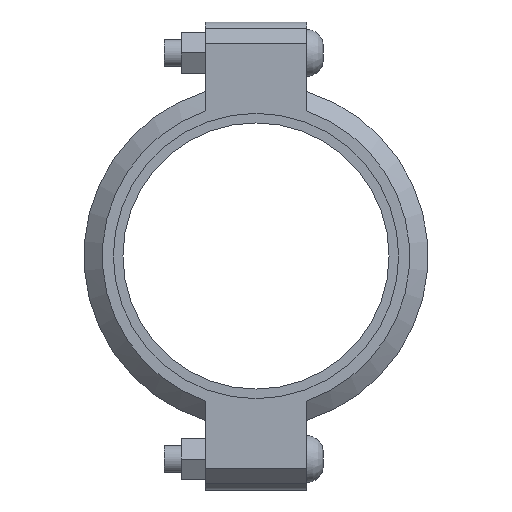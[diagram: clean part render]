
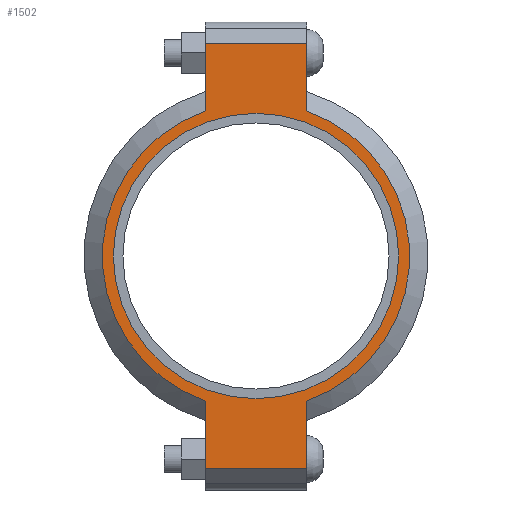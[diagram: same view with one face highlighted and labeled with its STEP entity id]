
A CAD part, left-side view. The second image highlights one B-rep face of the part: STEP entity #1502.
In plain terms, the highlighted planar face has unit normal (-1, 0, 0) as drawn and (0, 0, 1) by its records, which use the part's own axes.
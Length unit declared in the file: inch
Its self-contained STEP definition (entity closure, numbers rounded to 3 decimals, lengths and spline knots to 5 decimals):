
#126=LINE('',#2621,#219);
#134=LINE('',#2657,#227);
#141=LINE('',#2678,#234);
#150=LINE('',#2710,#243);
#151=LINE('',#2714,#244);
#152=LINE('',#2716,#245);
#219=VECTOR('',#2145,0.3937);
#227=VECTOR('',#2161,0.3937);
#234=VECTOR('',#2180,0.3937);
#243=VECTOR('',#2205,0.3937);
#244=VECTOR('',#2210,0.3937);
#245=VECTOR('',#2211,0.3937);
#301=FACE_BOUND('',#479,.T.);
#373=FACE_OUTER_BOUND('',#478,.T.);
#478=EDGE_LOOP('',(#1243,#1244,#1245,#1246,#1247,#1248,#1249,#1250));
#479=EDGE_LOOP('',(#1251));
#551=CIRCLE('',#1721,3.25);
#577=CIRCLE('',#1780,3.5);
#578=CIRCLE('',#1781,3.5);
#643=VERTEX_POINT('',#2437);
#686=VERTEX_POINT('',#2618);
#687=VERTEX_POINT('',#2620);
#698=VERTEX_POINT('',#2652);
#699=VERTEX_POINT('',#2656);
#706=VERTEX_POINT('',#2675);
#707=VERTEX_POINT('',#2677);
#717=VERTEX_POINT('',#2713);
#718=VERTEX_POINT('',#2715);
#799=EDGE_CURVE('',#643,#643,#551,.T.);
#860=EDGE_CURVE('',#687,#686,#126,.T.);
#874=EDGE_CURVE('',#699,#698,#134,.T.);
#884=EDGE_CURVE('',#707,#706,#141,.T.);
#899=EDGE_CURVE('',#699,#686,#150,.T.);
#900=EDGE_CURVE('',#698,#707,#577,.T.);
#901=EDGE_CURVE('',#717,#706,#151,.T.);
#902=EDGE_CURVE('',#717,#718,#152,.T.);
#903=EDGE_CURVE('',#718,#687,#578,.T.);
#1243=ORIENTED_EDGE('',*,*,#899,.F.);
#1244=ORIENTED_EDGE('',*,*,#874,.T.);
#1245=ORIENTED_EDGE('',*,*,#900,.T.);
#1246=ORIENTED_EDGE('',*,*,#884,.T.);
#1247=ORIENTED_EDGE('',*,*,#901,.F.);
#1248=ORIENTED_EDGE('',*,*,#902,.T.);
#1249=ORIENTED_EDGE('',*,*,#903,.T.);
#1250=ORIENTED_EDGE('',*,*,#860,.T.);
#1251=ORIENTED_EDGE('',*,*,#799,.T.);
#1344=PLANE('',#1779);
#1502=ADVANCED_FACE('',(#373,#301),#1344,.T.);
#1721=AXIS2_PLACEMENT_3D('',#2439,#2021,#2022);
#1779=AXIS2_PLACEMENT_3D('',#2711,#2206,#2207);
#1780=AXIS2_PLACEMENT_3D('',#2712,#2208,#2209);
#1781=AXIS2_PLACEMENT_3D('',#2717,#2212,#2213);
#2021=DIRECTION('center_axis',(0.,0.,-1.));
#2022=DIRECTION('ref_axis',(-1.,0.,0.));
#2145=DIRECTION('',(-1.,0.,0.));
#2161=DIRECTION('',(1.,0.,0.));
#2180=DIRECTION('',(1.,0.,0.));
#2205=DIRECTION('',(0.,1.,0.));
#2206=DIRECTION('center_axis',(0.,0.,1.));
#2207=DIRECTION('ref_axis',(1.,0.,0.));
#2208=DIRECTION('center_axis',(0.,0.,1.));
#2209=DIRECTION('ref_axis',(-1.,0.,0.));
#2210=DIRECTION('',(0.,-1.,0.));
#2211=DIRECTION('',(-1.,0.,0.));
#2212=DIRECTION('center_axis',(0.,0.,1.));
#2213=DIRECTION('ref_axis',(-1.,0.,0.));
#2437=CARTESIAN_POINT('',(3.25,0.,1.04));
#2439=CARTESIAN_POINT('Origin',(0.,0.,1.04));
#2618=CARTESIAN_POINT('',(-4.83,1.156,1.04));
#2620=CARTESIAN_POINT('',(-3.30358,1.156,1.04));
#2621=CARTESIAN_POINT('',(-5.33,1.156,1.04));
#2652=CARTESIAN_POINT('',(-3.30358,-1.156,1.04));
#2656=CARTESIAN_POINT('',(-4.83,-1.156,1.04));
#2657=CARTESIAN_POINT('',(5.33,-1.156,1.04));
#2675=CARTESIAN_POINT('',(4.83,-1.156,1.04));
#2677=CARTESIAN_POINT('',(3.30358,-1.156,1.04));
#2678=CARTESIAN_POINT('',(5.33,-1.156,1.04));
#2710=CARTESIAN_POINT('',(-4.83,0.578,1.04));
#2711=CARTESIAN_POINT('Origin',(0.,0.,1.04));
#2712=CARTESIAN_POINT('Origin',(0.,0.,1.04));
#2713=CARTESIAN_POINT('',(4.83,1.156,1.04));
#2714=CARTESIAN_POINT('',(4.83,-0.578,1.04));
#2715=CARTESIAN_POINT('',(3.30358,1.156,1.04));
#2716=CARTESIAN_POINT('',(-5.33,1.156,1.04));
#2717=CARTESIAN_POINT('Origin',(0.,0.,1.04));
